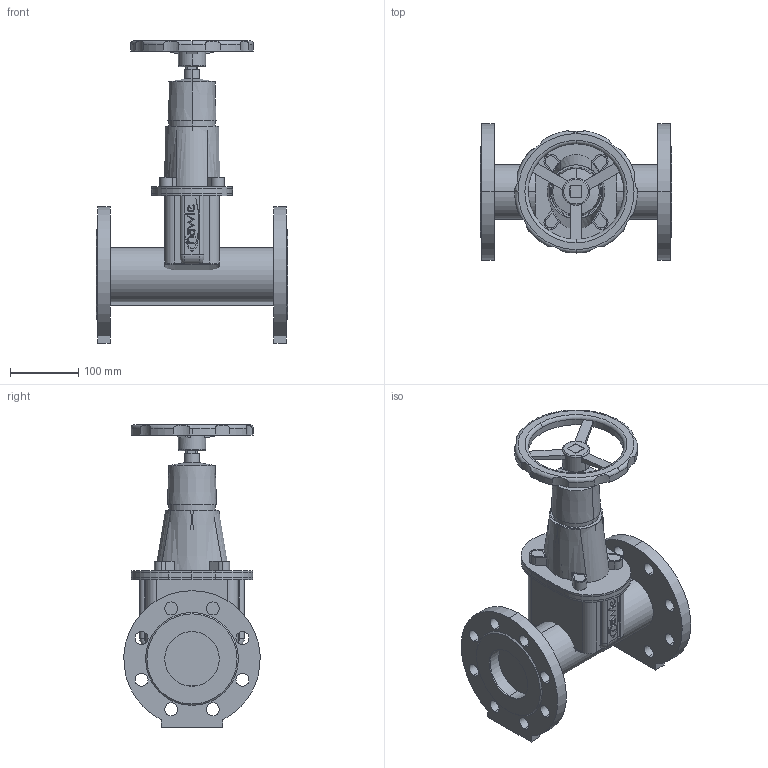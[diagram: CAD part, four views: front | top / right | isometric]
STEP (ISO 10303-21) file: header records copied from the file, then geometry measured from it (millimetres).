
FILE_DESCRIPTION(('STEP AP214'),'1');
FILE_NAME('S:/EK/USER/CAT6/3DHomepage/4700E2/4700E2-PN16-DN80-HANDRAD.STP','2012-04-23T12:21:06',(' '),(' '),'Spatial InterOp 3D',' ',' ');
FILE_SCHEMA(('automotive_design'));
Length unit declared in the file: millimetre
Products named in the file (48): 3D-Objekt
Bounding box: 280 x 199.56 x 443 mm (x, y, z)
Volume: 4851513.5 mm3; surface area: 670643.7 mm2
Topology: 48 solids, 48 shells, 487 faces, 1159 edges, 774 vertices
Faces by surface type: plane 253, cylinder 202, torus 12, bspline 10, cone 10
Entity records: 19733 total; most frequent: CARTESIAN_POINT 2916, DIRECTION 2681, ORIENTED_EDGE 2318, EDGE_CURVE 1159, AXIS2_PLACEMENT_3D 1007, VERTEX_POINT 774, LINE 667, VECTOR 667
